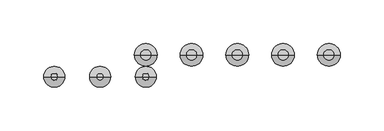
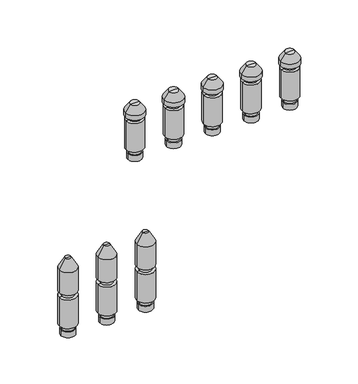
"""IFC4 building model written with IfcOpenShell, lengths in millimetres: valve geometry, PL AT_Manifold_FT-EV : 14 circuits."""

from ifc_helpers import new_model, si_unit, frame, origin, place, context, project, spatial, polyline, circle_curve, source, transform, mapped, element, save
from ifc_brep_helpers import plane_surface, cylinder_surface, revolved_surface, advanced_brep


def valve_4cbf1be7(model_context):
    return source(origin(), model_context, "Body", "AdvancedBrep", [
        advanced_brep(
        [(555.5769231, 25.0, 164.88733), (574.5769231, 25.0, 164.88733), (565.0769231, 25.0, 164.88733), (555.5769231, 25.0, 172.9630354), (574.5769231, 25.0, 172.9630354), (557.0769231, 25.0, 172.9630354), (573.0769231, 25.0, 172.9630354), (557.0769231, 25.0, 179.669747), (573.0769231, 25.0, 179.669747), (553.0769231, 25.0, 179.669747), (577.0769231, 25.0, 179.669747), (553.0769231, 25.0, 220.330253), (577.0769231, 25.0, 220.330253), (557.0769231, 25.0, 220.330253), (573.0769231, 25.0, 220.330253), (557.0769231, 25.0, 226.0474786), (573.0769231, 25.0, 226.0474786), (552.0769231, 25.0, 226.0474786), (578.0769231, 25.0, 226.0474786), (552.0769231, 25.0, 232.337955), (578.0769231, 25.0, 232.337955), (558.732101, 25.0, 241.842534), (571.4217452, 25.0, 241.842534), (565.0769231, 25.0, 241.842534)],
        [
            (0, 1, circle_curve(frame((565.0769231, 25.0, 164.88733), z_axis=(0.0, 0.0, -1.0), x_axis=(1.0, 0.0, 0.0)), 9.5)),
            (1, 2),
            (2, 0),
            (1, 0, circle_curve(frame((565.0769231, 25.0, 164.88733), z_axis=(0.0, 0.0, -1.0), x_axis=(1.0, 0.0, 0.0)), 9.5)),
            (3, 4, circle_curve(frame((565.0769231, 25.0, 172.9630354), z_axis=(0.0, 0.0, -1.0), x_axis=(1.0, 0.0, 0.0)), 9.5)),
            (4, 1),
            (0, 3),
            (4, 3, circle_curve(frame((565.0769231, 25.0, 172.9630354), z_axis=(0.0, 0.0, -1.0), x_axis=(1.0, 0.0, 0.0)), 9.5)),
            (5, 6, circle_curve(frame((565.0769231, 25.0, 172.9630354), z_axis=(0.0, 0.0, -1.0), x_axis=(1.0, 0.0, 0.0)), 8.0)),
            (6, 4),
            (3, 5),
            (6, 5, circle_curve(frame((565.0769231, 25.0, 172.9630354), z_axis=(0.0, 0.0, -1.0), x_axis=(1.0, 0.0, 0.0)), 8.0)),
            (7, 8, circle_curve(frame((565.0769231, 25.0, 179.669747), z_axis=(0.0, 0.0, -1.0), x_axis=(1.0, 0.0, 0.0)), 8.0)),
            (8, 6),
            (5, 7),
            (8, 7, circle_curve(frame((565.0769231, 25.0, 179.669747), z_axis=(0.0, 0.0, -1.0), x_axis=(1.0, 0.0, 0.0)), 8.0)),
            (9, 10, circle_curve(frame((565.0769231, 25.0, 179.669747), z_axis=(0.0, 0.0, -1.0), x_axis=(1.0, 0.0, 0.0)), 12.0)),
            (10, 8),
            (7, 9),
            (10, 9, circle_curve(frame((565.0769231, 25.0, 179.669747), z_axis=(0.0, 0.0, -1.0), x_axis=(1.0, 0.0, 0.0)), 12.0)),
            (11, 12, circle_curve(frame((565.0769231, 25.0, 220.330253), z_axis=(0.0, 0.0, -1.0), x_axis=(1.0, 0.0, 0.0)), 12.0)),
            (12, 10),
            (9, 11),
            (12, 11, circle_curve(frame((565.0769231, 25.0, 220.330253), z_axis=(0.0, 0.0, -1.0), x_axis=(1.0, 0.0, 0.0)), 12.0)),
            (13, 14, circle_curve(frame((565.0769231, 25.0, 220.330253), z_axis=(0.0, 0.0, -1.0), x_axis=(1.0, 0.0, 0.0)), 8.0)),
            (14, 12),
            (11, 13),
            (14, 13, circle_curve(frame((565.0769231, 25.0, 220.330253), z_axis=(0.0, 0.0, -1.0), x_axis=(1.0, 0.0, 0.0)), 8.0)),
            (15, 16, circle_curve(frame((565.0769231, 25.0, 226.0474786), z_axis=(0.0, 0.0, -1.0), x_axis=(1.0, 0.0, 0.0)), 8.0)),
            (16, 14),
            (13, 15),
            (16, 15, circle_curve(frame((565.0769231, 25.0, 226.0474786), z_axis=(0.0, 0.0, -1.0), x_axis=(1.0, 0.0, 0.0)), 8.0)),
            (17, 18, circle_curve(frame((565.0769231, 25.0, 226.0474786), z_axis=(0.0, 0.0, -1.0), x_axis=(1.0, 0.0, 0.0)), 13.0)),
            (18, 16),
            (15, 17),
            (18, 17, circle_curve(frame((565.0769231, 25.0, 226.0474786), z_axis=(0.0, 0.0, -1.0), x_axis=(1.0, 0.0, 0.0)), 13.0)),
            (19, 20, circle_curve(frame((565.0769231, 25.0, 232.337955), z_axis=(0.0, 0.0, -1.0), x_axis=(1.0, 0.0, 0.0)), 13.0)),
            (20, 18),
            (17, 19),
            (20, 19, circle_curve(frame((565.0769231, 25.0, 232.337955), z_axis=(0.0, 0.0, -1.0), x_axis=(1.0, 0.0, 0.0)), 13.0)),
            (21, 22, circle_curve(frame((565.0769231, 25.0, 241.842534), z_axis=(0.0, 0.0, -1.0), x_axis=(1.0, 0.0, 0.0)), 6.3448221)),
            (22, 20),
            (19, 21),
            (22, 21, circle_curve(frame((565.0769231, 25.0, 241.842534), z_axis=(0.0, 0.0, -1.0), x_axis=(1.0, 0.0, 0.0)), 6.3448221)),
            (23, 22),
            (21, 23),
        ],
        [
            plane_surface(frame((565.0769231, 25.0, 164.88733), z_axis=(0.0, 0.0, -1.0), x_axis=(1.0, 0.0, 0.0))),
            cylinder_surface(frame((565.0769231, 25.0, 237.7026565), z_axis=(0.0, 0.0, 1.0), x_axis=(1.0, 0.0, 0.0)), 9.5),
            plane_surface(frame((565.0769231, 25.0, 172.9630354), z_axis=(0.0, 0.0, 1.0), x_axis=(1.0, 0.0, 0.0))),
            cylinder_surface(frame((565.0769231, 25.0, 237.7026565), z_axis=(0.0, 0.0, 1.0), x_axis=(1.0, 0.0, 0.0)), 8.0),
            plane_surface(frame((565.0769231, 25.0, 179.669747), z_axis=(0.0, 0.0, -1.0), x_axis=(1.0, 0.0, 0.0))),
            cylinder_surface(frame((565.0769231, 25.0, 237.7026565), z_axis=(0.0, 0.0, 1.0), x_axis=(1.0, 0.0, 0.0)), 12.0),
            plane_surface(frame((565.0769231, 25.0, 220.330253), z_axis=(0.0, 0.0, 1.0), x_axis=(1.0, 0.0, 0.0))),
            plane_surface(frame((565.0769231, 25.0, 226.0474786), z_axis=(0.0, 0.0, -1.0), x_axis=(1.0, 0.0, 0.0))),
            cylinder_surface(frame((565.0769231, 25.0, 237.7026565), z_axis=(0.0, 0.0, 1.0), x_axis=(1.0, 0.0, 0.0)), 13.0),
            revolved_surface(polyline([(578.0769231, 25.0, 232.337955), (571.4217452, 25.0, 241.842534)]), (565.0769231, 25.0, 237.7026565), (0.0, 0.0, 1.0)),
            plane_surface(frame((565.0769231, 25.0, 241.842534), z_axis=(0.0, 0.0, 1.0), x_axis=(1.0, 0.0, 0.0))),
        ],
        [
            (0, [[1, 2, 3]]),
            (0, [[4, -3, -2]]),
            (1, [[5, 6, -1, 7]]),
            (1, [[8, -7, -4, -6]]),
            (2, [[9, 10, -5, 11]]),
            (2, [[12, -11, -8, -10]]),
            (3, [[13, 14, -9, 15]]),
            (3, [[16, -15, -12, -14]]),
            (4, [[17, 18, -13, 19]]),
            (4, [[20, -19, -16, -18]]),
            (5, [[21, 22, -17, 23]]),
            (5, [[24, -23, -20, -22]]),
            (6, [[25, 26, -21, 27]]),
            (6, [[28, -27, -24, -26]]),
            (3, [[29, 30, -25, 31]]),
            (3, [[32, -31, -28, -30]]),
            (7, [[33, 34, -29, 35]]),
            (7, [[36, -35, -32, -34]]),
            (8, [[37, 38, -33, 39]]),
            (8, [[40, -39, -36, -38]]),
            (9, [[41, 42, -37, 43]]),
            (9, [[44, -43, -40, -42]]),
            (10, [[45, -41, 46]]),
            (10, [[-46, -44, -45]]),
        ],
    ),
        advanced_brep(
        [(503.2692308, 25.0, 164.88733), (522.2692308, 25.0, 164.88733), (512.7692308, 25.0, 164.88733), (503.2692308, 25.0, 172.9630354), (522.2692308, 25.0, 172.9630354), (504.7692308, 25.0, 172.9630354), (520.7692308, 25.0, 172.9630354), (504.7692308, 25.0, 179.669747), (520.7692308, 25.0, 179.669747), (500.7692308, 25.0, 179.669747), (524.7692308, 25.0, 179.669747), (500.7692308, 25.0, 220.330253), (524.7692308, 25.0, 220.330253), (504.7692308, 25.0, 220.330253), (520.7692308, 25.0, 220.330253), (504.7692308, 25.0, 226.0474786), (520.7692308, 25.0, 226.0474786), (499.7692308, 25.0, 226.0474786), (525.7692308, 25.0, 226.0474786), (499.7692308, 25.0, 232.337955), (525.7692308, 25.0, 232.337955), (506.4244086, 25.0, 241.842534), (519.1140529, 25.0, 241.842534), (512.7692308, 25.0, 241.842534)],
        [
            (0, 1, circle_curve(frame((512.7692308, 25.0, 164.88733), z_axis=(0.0, 0.0, -1.0), x_axis=(1.0, 0.0, 0.0)), 9.5)),
            (1, 2),
            (2, 0),
            (1, 0, circle_curve(frame((512.7692308, 25.0, 164.88733), z_axis=(0.0, 0.0, -1.0), x_axis=(1.0, 0.0, 0.0)), 9.5)),
            (3, 4, circle_curve(frame((512.7692308, 25.0, 172.9630354), z_axis=(0.0, 0.0, -1.0), x_axis=(1.0, 0.0, 0.0)), 9.5)),
            (4, 1),
            (0, 3),
            (4, 3, circle_curve(frame((512.7692308, 25.0, 172.9630354), z_axis=(0.0, 0.0, -1.0), x_axis=(1.0, 0.0, 0.0)), 9.5)),
            (5, 6, circle_curve(frame((512.7692308, 25.0, 172.9630354), z_axis=(0.0, 0.0, -1.0), x_axis=(1.0, 0.0, 0.0)), 8.0)),
            (6, 4),
            (3, 5),
            (6, 5, circle_curve(frame((512.7692308, 25.0, 172.9630354), z_axis=(0.0, 0.0, -1.0), x_axis=(1.0, 0.0, 0.0)), 8.0)),
            (7, 8, circle_curve(frame((512.7692308, 25.0, 179.669747), z_axis=(0.0, 0.0, -1.0), x_axis=(1.0, 0.0, 0.0)), 8.0)),
            (8, 6),
            (5, 7),
            (8, 7, circle_curve(frame((512.7692308, 25.0, 179.669747), z_axis=(0.0, 0.0, -1.0), x_axis=(1.0, 0.0, 0.0)), 8.0)),
            (9, 10, circle_curve(frame((512.7692308, 25.0, 179.669747), z_axis=(0.0, 0.0, -1.0), x_axis=(1.0, 0.0, 0.0)), 12.0)),
            (10, 8),
            (7, 9),
            (10, 9, circle_curve(frame((512.7692308, 25.0, 179.669747), z_axis=(0.0, 0.0, -1.0), x_axis=(1.0, 0.0, 0.0)), 12.0)),
            (11, 12, circle_curve(frame((512.7692308, 25.0, 220.330253), z_axis=(0.0, 0.0, -1.0), x_axis=(1.0, 0.0, 0.0)), 12.0)),
            (12, 10),
            (9, 11),
            (12, 11, circle_curve(frame((512.7692308, 25.0, 220.330253), z_axis=(0.0, 0.0, -1.0), x_axis=(1.0, 0.0, 0.0)), 12.0)),
            (13, 14, circle_curve(frame((512.7692308, 25.0, 220.330253), z_axis=(0.0, 0.0, -1.0), x_axis=(1.0, 0.0, 0.0)), 8.0)),
            (14, 12),
            (11, 13),
            (14, 13, circle_curve(frame((512.7692308, 25.0, 220.330253), z_axis=(0.0, 0.0, -1.0), x_axis=(1.0, 0.0, 0.0)), 8.0)),
            (15, 16, circle_curve(frame((512.7692308, 25.0, 226.0474786), z_axis=(0.0, 0.0, -1.0), x_axis=(1.0, 0.0, 0.0)), 8.0)),
            (16, 14),
            (13, 15),
            (16, 15, circle_curve(frame((512.7692308, 25.0, 226.0474786), z_axis=(0.0, 0.0, -1.0), x_axis=(1.0, 0.0, 0.0)), 8.0)),
            (17, 18, circle_curve(frame((512.7692308, 25.0, 226.0474786), z_axis=(0.0, 0.0, -1.0), x_axis=(1.0, 0.0, 0.0)), 13.0)),
            (18, 16),
            (15, 17),
            (18, 17, circle_curve(frame((512.7692308, 25.0, 226.0474786), z_axis=(0.0, 0.0, -1.0), x_axis=(1.0, 0.0, 0.0)), 13.0)),
            (19, 20, circle_curve(frame((512.7692308, 25.0, 232.337955), z_axis=(0.0, 0.0, -1.0), x_axis=(1.0, 0.0, 0.0)), 13.0)),
            (20, 18),
            (17, 19),
            (20, 19, circle_curve(frame((512.7692308, 25.0, 232.337955), z_axis=(0.0, 0.0, -1.0), x_axis=(1.0, 0.0, 0.0)), 13.0)),
            (21, 22, circle_curve(frame((512.7692308, 25.0, 241.842534), z_axis=(0.0, 0.0, -1.0), x_axis=(1.0, 0.0, 0.0)), 6.3448221)),
            (22, 20),
            (19, 21),
            (22, 21, circle_curve(frame((512.7692308, 25.0, 241.842534), z_axis=(0.0, 0.0, -1.0), x_axis=(1.0, 0.0, 0.0)), 6.3448221)),
            (23, 22),
            (21, 23),
        ],
        [
            plane_surface(frame((512.7692308, 25.0, 164.88733), z_axis=(0.0, 0.0, -1.0), x_axis=(1.0, 0.0, 0.0))),
            cylinder_surface(frame((512.7692308, 25.0, 237.7026565), z_axis=(0.0, 0.0, 1.0), x_axis=(1.0, 0.0, 0.0)), 9.5),
            plane_surface(frame((512.7692308, 25.0, 172.9630354), z_axis=(0.0, 0.0, 1.0), x_axis=(1.0, 0.0, 0.0))),
            cylinder_surface(frame((512.7692308, 25.0, 237.7026565), z_axis=(0.0, 0.0, 1.0), x_axis=(1.0, 0.0, 0.0)), 8.0),
            plane_surface(frame((512.7692308, 25.0, 179.669747), z_axis=(0.0, 0.0, -1.0), x_axis=(1.0, 0.0, 0.0))),
            cylinder_surface(frame((512.7692308, 25.0, 237.7026565), z_axis=(0.0, 0.0, 1.0), x_axis=(1.0, 0.0, 0.0)), 12.0),
            plane_surface(frame((512.7692308, 25.0, 220.330253), z_axis=(0.0, 0.0, 1.0), x_axis=(1.0, 0.0, 0.0))),
            plane_surface(frame((512.7692308, 25.0, 226.0474786), z_axis=(0.0, 0.0, -1.0), x_axis=(1.0, 0.0, 0.0))),
            cylinder_surface(frame((512.7692308, 25.0, 237.7026565), z_axis=(0.0, 0.0, 1.0), x_axis=(1.0, 0.0, 0.0)), 13.0),
            revolved_surface(polyline([(525.7692308, 25.0, 232.337955), (519.1140529, 25.0, 241.842534)]), (512.7692308, 25.0, 237.7026565), (0.0, 0.0, 1.0)),
            plane_surface(frame((512.7692308, 25.0, 241.842534), z_axis=(0.0, 0.0, 1.0), x_axis=(1.0, 0.0, 0.0))),
        ],
        [
            (0, [[1, 2, 3]]),
            (0, [[4, -3, -2]]),
            (1, [[5, 6, -1, 7]]),
            (1, [[8, -7, -4, -6]]),
            (2, [[9, 10, -5, 11]]),
            (2, [[12, -11, -8, -10]]),
            (3, [[13, 14, -9, 15]]),
            (3, [[16, -15, -12, -14]]),
            (4, [[17, 18, -13, 19]]),
            (4, [[20, -19, -16, -18]]),
            (5, [[21, 22, -17, 23]]),
            (5, [[24, -23, -20, -22]]),
            (6, [[25, 26, -21, 27]]),
            (6, [[28, -27, -24, -26]]),
            (3, [[29, 30, -25, 31]]),
            (3, [[32, -31, -28, -30]]),
            (7, [[33, 34, -29, 35]]),
            (7, [[36, -35, -32, -34]]),
            (8, [[37, 38, -33, 39]]),
            (8, [[40, -39, -36, -38]]),
            (9, [[41, 42, -37, 43]]),
            (9, [[44, -43, -40, -42]]),
            (10, [[45, -41, 46]]),
            (10, [[-46, -44, -45]]),
        ],
    ),
        advanced_brep(
        [(450.9615385, 25.0, 164.88733), (469.9615385, 25.0, 164.88733), (460.4615385, 25.0, 164.88733), (450.9615385, 25.0, 172.9630354), (469.9615385, 25.0, 172.9630354), (452.4615385, 25.0, 172.9630354), (468.4615385, 25.0, 172.9630354), (452.4615385, 25.0, 179.669747), (468.4615385, 25.0, 179.669747), (448.4615385, 25.0, 179.669747), (472.4615385, 25.0, 179.669747), (448.4615385, 25.0, 220.330253), (472.4615385, 25.0, 220.330253), (452.4615385, 25.0, 220.330253), (468.4615385, 25.0, 220.330253), (452.4615385, 25.0, 226.0474786), (468.4615385, 25.0, 226.0474786), (447.4615385, 25.0, 226.0474786), (473.4615385, 25.0, 226.0474786), (447.4615385, 25.0, 232.337955), (473.4615385, 25.0, 232.337955), (454.1167163, 25.0, 241.842534), (466.8063606, 25.0, 241.842534), (460.4615385, 25.0, 241.842534)],
        [
            (0, 1, circle_curve(frame((460.4615385, 25.0, 164.88733), z_axis=(0.0, 0.0, -1.0), x_axis=(1.0, 0.0, 0.0)), 9.5)),
            (1, 2),
            (2, 0),
            (1, 0, circle_curve(frame((460.4615385, 25.0, 164.88733), z_axis=(0.0, 0.0, -1.0), x_axis=(1.0, 0.0, 0.0)), 9.5)),
            (3, 4, circle_curve(frame((460.4615385, 25.0, 172.9630354), z_axis=(0.0, 0.0, -1.0), x_axis=(1.0, 0.0, 0.0)), 9.5)),
            (4, 1),
            (0, 3),
            (4, 3, circle_curve(frame((460.4615385, 25.0, 172.9630354), z_axis=(0.0, 0.0, -1.0), x_axis=(1.0, 0.0, 0.0)), 9.5)),
            (5, 6, circle_curve(frame((460.4615385, 25.0, 172.9630354), z_axis=(0.0, 0.0, -1.0), x_axis=(1.0, 0.0, 0.0)), 8.0)),
            (6, 4),
            (3, 5),
            (6, 5, circle_curve(frame((460.4615385, 25.0, 172.9630354), z_axis=(0.0, 0.0, -1.0), x_axis=(1.0, 0.0, 0.0)), 8.0)),
            (7, 8, circle_curve(frame((460.4615385, 25.0, 179.669747), z_axis=(0.0, 0.0, -1.0), x_axis=(1.0, 0.0, 0.0)), 8.0)),
            (8, 6),
            (5, 7),
            (8, 7, circle_curve(frame((460.4615385, 25.0, 179.669747), z_axis=(0.0, 0.0, -1.0), x_axis=(1.0, 0.0, 0.0)), 8.0)),
            (9, 10, circle_curve(frame((460.4615385, 25.0, 179.669747), z_axis=(0.0, 0.0, -1.0), x_axis=(1.0, 0.0, 0.0)), 12.0)),
            (10, 8),
            (7, 9),
            (10, 9, circle_curve(frame((460.4615385, 25.0, 179.669747), z_axis=(0.0, 0.0, -1.0), x_axis=(1.0, 0.0, 0.0)), 12.0)),
            (11, 12, circle_curve(frame((460.4615385, 25.0, 220.330253), z_axis=(0.0, 0.0, -1.0), x_axis=(1.0, 0.0, 0.0)), 12.0)),
            (12, 10),
            (9, 11),
            (12, 11, circle_curve(frame((460.4615385, 25.0, 220.330253), z_axis=(0.0, 0.0, -1.0), x_axis=(1.0, 0.0, 0.0)), 12.0)),
            (13, 14, circle_curve(frame((460.4615385, 25.0, 220.330253), z_axis=(0.0, 0.0, -1.0), x_axis=(1.0, 0.0, 0.0)), 8.0)),
            (14, 12),
            (11, 13),
            (14, 13, circle_curve(frame((460.4615385, 25.0, 220.330253), z_axis=(0.0, 0.0, -1.0), x_axis=(1.0, 0.0, 0.0)), 8.0)),
            (15, 16, circle_curve(frame((460.4615385, 25.0, 226.0474786), z_axis=(0.0, 0.0, -1.0), x_axis=(1.0, 0.0, 0.0)), 8.0)),
            (16, 14),
            (13, 15),
            (16, 15, circle_curve(frame((460.4615385, 25.0, 226.0474786), z_axis=(0.0, 0.0, -1.0), x_axis=(1.0, 0.0, 0.0)), 8.0)),
            (17, 18, circle_curve(frame((460.4615385, 25.0, 226.0474786), z_axis=(0.0, 0.0, -1.0), x_axis=(1.0, 0.0, 0.0)), 13.0)),
            (18, 16),
            (15, 17),
            (18, 17, circle_curve(frame((460.4615385, 25.0, 226.0474786), z_axis=(0.0, 0.0, -1.0), x_axis=(1.0, 0.0, 0.0)), 13.0)),
            (19, 20, circle_curve(frame((460.4615385, 25.0, 232.337955), z_axis=(0.0, 0.0, -1.0), x_axis=(1.0, 0.0, 0.0)), 13.0)),
            (20, 18),
            (17, 19),
            (20, 19, circle_curve(frame((460.4615385, 25.0, 232.337955), z_axis=(0.0, 0.0, -1.0), x_axis=(1.0, 0.0, 0.0)), 13.0)),
            (21, 22, circle_curve(frame((460.4615385, 25.0, 241.842534), z_axis=(0.0, 0.0, -1.0), x_axis=(1.0, 0.0, 0.0)), 6.3448221)),
            (22, 20),
            (19, 21),
            (22, 21, circle_curve(frame((460.4615385, 25.0, 241.842534), z_axis=(0.0, 0.0, -1.0), x_axis=(1.0, 0.0, 0.0)), 6.3448221)),
            (23, 22),
            (21, 23),
        ],
        [
            plane_surface(frame((460.4615385, 25.0, 164.88733), z_axis=(0.0, 0.0, -1.0), x_axis=(1.0, 0.0, 0.0))),
            cylinder_surface(frame((460.4615385, 25.0, 237.7026565), z_axis=(0.0, 0.0, 1.0), x_axis=(1.0, 0.0, 0.0)), 9.5),
            plane_surface(frame((460.4615385, 25.0, 172.9630354), z_axis=(0.0, 0.0, 1.0), x_axis=(1.0, 0.0, 0.0))),
            cylinder_surface(frame((460.4615385, 25.0, 237.7026565), z_axis=(0.0, 0.0, 1.0), x_axis=(1.0, 0.0, 0.0)), 8.0),
            plane_surface(frame((460.4615385, 25.0, 179.669747), z_axis=(0.0, 0.0, -1.0), x_axis=(1.0, 0.0, 0.0))),
            cylinder_surface(frame((460.4615385, 25.0, 237.7026565), z_axis=(0.0, 0.0, 1.0), x_axis=(1.0, 0.0, 0.0)), 12.0),
            plane_surface(frame((460.4615385, 25.0, 220.330253), z_axis=(0.0, 0.0, 1.0), x_axis=(1.0, 0.0, 0.0))),
            plane_surface(frame((460.4615385, 25.0, 226.0474786), z_axis=(0.0, 0.0, -1.0), x_axis=(1.0, 0.0, 0.0))),
            cylinder_surface(frame((460.4615385, 25.0, 237.7026565), z_axis=(0.0, 0.0, 1.0), x_axis=(1.0, 0.0, 0.0)), 13.0),
            revolved_surface(polyline([(473.4615385, 25.0, 232.337955), (466.8063606, 25.0, 241.842534)]), (460.4615385, 25.0, 237.7026565), (0.0, 0.0, 1.0)),
            plane_surface(frame((460.4615385, 25.0, 241.842534), z_axis=(0.0, 0.0, 1.0), x_axis=(1.0, 0.0, 0.0))),
        ],
        [
            (0, [[1, 2, 3]]),
            (0, [[4, -3, -2]]),
            (1, [[5, 6, -1, 7]]),
            (1, [[8, -7, -4, -6]]),
            (2, [[9, 10, -5, 11]]),
            (2, [[12, -11, -8, -10]]),
            (3, [[13, 14, -9, 15]]),
            (3, [[16, -15, -12, -14]]),
            (4, [[17, 18, -13, 19]]),
            (4, [[20, -19, -16, -18]]),
            (5, [[21, 22, -17, 23]]),
            (5, [[24, -23, -20, -22]]),
            (6, [[25, 26, -21, 27]]),
            (6, [[28, -27, -24, -26]]),
            (3, [[29, 30, -25, 31]]),
            (3, [[32, -31, -28, -30]]),
            (7, [[33, 34, -29, 35]]),
            (7, [[36, -35, -32, -34]]),
            (8, [[37, 38, -33, 39]]),
            (8, [[40, -39, -36, -38]]),
            (9, [[41, 42, -37, 43]]),
            (9, [[44, -43, -40, -42]]),
            (10, [[45, -41, 46]]),
            (10, [[-46, -44, -45]]),
        ],
    ),
        advanced_brep(
        [(398.6538462, 25.0, 164.88733), (417.6538462, 25.0, 164.88733), (408.1538462, 25.0, 164.88733), (398.6538462, 25.0, 172.9630354), (417.6538462, 25.0, 172.9630354), (400.1538462, 25.0, 172.9630354), (416.1538462, 25.0, 172.9630354), (400.1538462, 25.0, 179.669747), (416.1538462, 25.0, 179.669747), (396.1538462, 25.0, 179.669747), (420.1538462, 25.0, 179.669747), (396.1538462, 25.0, 220.330253), (420.1538462, 25.0, 220.330253), (400.1538462, 25.0, 220.330253), (416.1538462, 25.0, 220.330253), (400.1538462, 25.0, 226.0474786), (416.1538462, 25.0, 226.0474786), (395.1538462, 25.0, 226.0474786), (421.1538462, 25.0, 226.0474786), (395.1538462, 25.0, 232.337955), (421.1538462, 25.0, 232.337955), (401.809024, 25.0, 241.842534), (414.4986683, 25.0, 241.842534), (408.1538462, 25.0, 241.842534)],
        [
            (0, 1, circle_curve(frame((408.1538462, 25.0, 164.88733), z_axis=(0.0, 0.0, -1.0), x_axis=(1.0, 0.0, 0.0)), 9.5)),
            (1, 2),
            (2, 0),
            (1, 0, circle_curve(frame((408.1538462, 25.0, 164.88733), z_axis=(0.0, 0.0, -1.0), x_axis=(1.0, 0.0, 0.0)), 9.5)),
            (3, 4, circle_curve(frame((408.1538462, 25.0, 172.9630354), z_axis=(0.0, 0.0, -1.0), x_axis=(1.0, 0.0, 0.0)), 9.5)),
            (4, 1),
            (0, 3),
            (4, 3, circle_curve(frame((408.1538462, 25.0, 172.9630354), z_axis=(0.0, 0.0, -1.0), x_axis=(1.0, 0.0, 0.0)), 9.5)),
            (5, 6, circle_curve(frame((408.1538462, 25.0, 172.9630354), z_axis=(0.0, 0.0, -1.0), x_axis=(1.0, 0.0, 0.0)), 8.0)),
            (6, 4),
            (3, 5),
            (6, 5, circle_curve(frame((408.1538462, 25.0, 172.9630354), z_axis=(0.0, 0.0, -1.0), x_axis=(1.0, 0.0, 0.0)), 8.0)),
            (7, 8, circle_curve(frame((408.1538462, 25.0, 179.669747), z_axis=(0.0, 0.0, -1.0), x_axis=(1.0, 0.0, 0.0)), 8.0)),
            (8, 6),
            (5, 7),
            (8, 7, circle_curve(frame((408.1538462, 25.0, 179.669747), z_axis=(0.0, 0.0, -1.0), x_axis=(1.0, 0.0, 0.0)), 8.0)),
            (9, 10, circle_curve(frame((408.1538462, 25.0, 179.669747), z_axis=(0.0, 0.0, -1.0), x_axis=(1.0, 0.0, 0.0)), 12.0)),
            (10, 8),
            (7, 9),
            (10, 9, circle_curve(frame((408.1538462, 25.0, 179.669747), z_axis=(0.0, 0.0, -1.0), x_axis=(1.0, 0.0, 0.0)), 12.0)),
            (11, 12, circle_curve(frame((408.1538462, 25.0, 220.330253), z_axis=(0.0, 0.0, -1.0), x_axis=(1.0, 0.0, 0.0)), 12.0)),
            (12, 10),
            (9, 11),
            (12, 11, circle_curve(frame((408.1538462, 25.0, 220.330253), z_axis=(0.0, 0.0, -1.0), x_axis=(1.0, 0.0, 0.0)), 12.0)),
            (13, 14, circle_curve(frame((408.1538462, 25.0, 220.330253), z_axis=(0.0, 0.0, -1.0), x_axis=(1.0, 0.0, 0.0)), 8.0)),
            (14, 12),
            (11, 13),
            (14, 13, circle_curve(frame((408.1538462, 25.0, 220.330253), z_axis=(0.0, 0.0, -1.0), x_axis=(1.0, 0.0, 0.0)), 8.0)),
            (15, 16, circle_curve(frame((408.1538462, 25.0, 226.0474786), z_axis=(0.0, 0.0, -1.0), x_axis=(1.0, 0.0, 0.0)), 8.0)),
            (16, 14),
            (13, 15),
            (16, 15, circle_curve(frame((408.1538462, 25.0, 226.0474786), z_axis=(0.0, 0.0, -1.0), x_axis=(1.0, 0.0, 0.0)), 8.0)),
            (17, 18, circle_curve(frame((408.1538462, 25.0, 226.0474786), z_axis=(0.0, 0.0, -1.0), x_axis=(1.0, 0.0, 0.0)), 13.0)),
            (18, 16),
            (15, 17),
            (18, 17, circle_curve(frame((408.1538462, 25.0, 226.0474786), z_axis=(0.0, 0.0, -1.0), x_axis=(1.0, 0.0, 0.0)), 13.0)),
            (19, 20, circle_curve(frame((408.1538462, 25.0, 232.337955), z_axis=(0.0, 0.0, -1.0), x_axis=(1.0, 0.0, 0.0)), 13.0)),
            (20, 18),
            (17, 19),
            (20, 19, circle_curve(frame((408.1538462, 25.0, 232.337955), z_axis=(0.0, 0.0, -1.0), x_axis=(1.0, 0.0, 0.0)), 13.0)),
            (21, 22, circle_curve(frame((408.1538462, 25.0, 241.842534), z_axis=(0.0, 0.0, -1.0), x_axis=(1.0, 0.0, 0.0)), 6.3448221)),
            (22, 20),
            (19, 21),
            (22, 21, circle_curve(frame((408.1538462, 25.0, 241.842534), z_axis=(0.0, 0.0, -1.0), x_axis=(1.0, 0.0, 0.0)), 6.3448221)),
            (23, 22),
            (21, 23),
        ],
        [
            plane_surface(frame((408.1538462, 25.0, 164.88733), z_axis=(0.0, 0.0, -1.0), x_axis=(1.0, 0.0, 0.0))),
            cylinder_surface(frame((408.1538462, 25.0, 237.7026565), z_axis=(0.0, 0.0, 1.0), x_axis=(1.0, 0.0, 0.0)), 9.5),
            plane_surface(frame((408.1538462, 25.0, 172.9630354), z_axis=(0.0, 0.0, 1.0), x_axis=(1.0, 0.0, 0.0))),
            cylinder_surface(frame((408.1538462, 25.0, 237.7026565), z_axis=(0.0, 0.0, 1.0), x_axis=(1.0, 0.0, 0.0)), 8.0),
            plane_surface(frame((408.1538462, 25.0, 179.669747), z_axis=(0.0, 0.0, -1.0), x_axis=(1.0, 0.0, 0.0))),
            cylinder_surface(frame((408.1538462, 25.0, 237.7026565), z_axis=(0.0, 0.0, 1.0), x_axis=(1.0, 0.0, 0.0)), 12.0),
            plane_surface(frame((408.1538462, 25.0, 220.330253), z_axis=(0.0, 0.0, 1.0), x_axis=(1.0, 0.0, 0.0))),
            plane_surface(frame((408.1538462, 25.0, 226.0474786), z_axis=(0.0, 0.0, -1.0), x_axis=(1.0, 0.0, 0.0))),
            cylinder_surface(frame((408.1538462, 25.0, 237.7026565), z_axis=(0.0, 0.0, 1.0), x_axis=(1.0, 0.0, 0.0)), 13.0),
            revolved_surface(polyline([(421.1538462, 25.0, 232.337955), (414.4986683, 25.0, 241.842534)]), (408.1538462, 25.0, 237.7026565), (0.0, 0.0, 1.0)),
            plane_surface(frame((408.1538462, 25.0, 241.842534), z_axis=(0.0, 0.0, 1.0), x_axis=(1.0, 0.0, 0.0))),
        ],
        [
            (0, [[1, 2, 3]]),
            (0, [[4, -3, -2]]),
            (1, [[5, 6, -1, 7]]),
            (1, [[8, -7, -4, -6]]),
            (2, [[9, 10, -5, 11]]),
            (2, [[12, -11, -8, -10]]),
            (3, [[13, 14, -9, 15]]),
            (3, [[16, -15, -12, -14]]),
            (4, [[17, 18, -13, 19]]),
            (4, [[20, -19, -16, -18]]),
            (5, [[21, 22, -17, 23]]),
            (5, [[24, -23, -20, -22]]),
            (6, [[25, 26, -21, 27]]),
            (6, [[28, -27, -24, -26]]),
            (3, [[29, 30, -25, 31]]),
            (3, [[32, -31, -28, -30]]),
            (7, [[33, 34, -29, 35]]),
            (7, [[36, -35, -32, -34]]),
            (8, [[37, 38, -33, 39]]),
            (8, [[40, -39, -36, -38]]),
            (9, [[41, 42, -37, 43]]),
            (9, [[44, -43, -40, -42]]),
            (10, [[45, -41, 46]]),
            (10, [[-46, -44, -45]]),
        ],
    ),
        advanced_brep(
        [(346.3461538, 0.0, -35.11267), (365.3461538, 0.0, -35.11267), (355.8461538, 0.0, -35.11267), (346.3461538, 0.0, -27.0369646), (365.3461538, 0.0, -27.0369646), (347.8461538, 0.0, -27.0369646), (363.8461538, 0.0, -27.0369646), (347.8461538, 0.0, -20.330253), (363.8461538, 0.0, -20.330253), (343.8461538, 0.0, -20.330253), (367.8461538, 0.0, -20.330253), (343.8461538, 0.0, 20.330253), (367.8461538, 0.0, 20.330253), (347.8461538, 0.0, 20.330253), (363.8461538, 0.0, 20.330253), (347.8461538, 0.0, 27.0474786), (363.8461538, 0.0, 27.0474786), (343.8461538, 0.0, 27.0474786), (367.8461538, 0.0, 27.0474786), (343.8461538, 0.0, 59.4084325), (367.8461538, 0.0, 59.4084325), (351.8461538, 0.0, 73.264839), (359.8461538, 0.0, 73.264839), (355.8461538, 0.0, 73.264839)],
        [
            (0, 1, circle_curve(frame((355.8461538, 0.0, -35.11267), z_axis=(0.0, 0.0, -1.0), x_axis=(1.0, 0.0, 0.0)), 9.5)),
            (1, 2),
            (2, 0),
            (1, 0, circle_curve(frame((355.8461538, 0.0, -35.11267), z_axis=(0.0, 0.0, -1.0), x_axis=(1.0, 0.0, 0.0)), 9.5)),
            (3, 4, circle_curve(frame((355.8461538, 0.0, -27.0369646), z_axis=(0.0, 0.0, -1.0), x_axis=(1.0, 0.0, 0.0)), 9.5)),
            (4, 1),
            (0, 3),
            (4, 3, circle_curve(frame((355.8461538, 0.0, -27.0369646), z_axis=(0.0, 0.0, -1.0), x_axis=(1.0, 0.0, 0.0)), 9.5)),
            (5, 6, circle_curve(frame((355.8461538, 0.0, -27.0369646), z_axis=(0.0, 0.0, -1.0), x_axis=(1.0, 0.0, 0.0)), 8.0)),
            (6, 4),
            (3, 5),
            (6, 5, circle_curve(frame((355.8461538, 0.0, -27.0369646), z_axis=(0.0, 0.0, -1.0), x_axis=(1.0, 0.0, 0.0)), 8.0)),
            (7, 8, circle_curve(frame((355.8461538, 0.0, -20.330253), z_axis=(0.0, 0.0, -1.0), x_axis=(1.0, 0.0, 0.0)), 8.0)),
            (8, 6),
            (5, 7),
            (8, 7, circle_curve(frame((355.8461538, 0.0, -20.330253), z_axis=(0.0, 0.0, -1.0), x_axis=(1.0, 0.0, 0.0)), 8.0)),
            (9, 10, circle_curve(frame((355.8461538, 0.0, -20.330253), z_axis=(0.0, 0.0, -1.0), x_axis=(1.0, 0.0, 0.0)), 12.0)),
            (10, 8),
            (7, 9),
            (10, 9, circle_curve(frame((355.8461538, 0.0, -20.330253), z_axis=(0.0, 0.0, -1.0), x_axis=(1.0, 0.0, 0.0)), 12.0)),
            (11, 12, circle_curve(frame((355.8461538, 0.0, 20.330253), z_axis=(0.0, 0.0, -1.0), x_axis=(1.0, 0.0, 0.0)), 12.0)),
            (12, 10),
            (9, 11),
            (12, 11, circle_curve(frame((355.8461538, 0.0, 20.330253), z_axis=(0.0, 0.0, -1.0), x_axis=(1.0, 0.0, 0.0)), 12.0)),
            (13, 14, circle_curve(frame((355.8461538, 0.0, 20.330253), z_axis=(0.0, 0.0, -1.0), x_axis=(1.0, 0.0, 0.0)), 8.0)),
            (14, 12),
            (11, 13),
            (14, 13, circle_curve(frame((355.8461538, 0.0, 20.330253), z_axis=(0.0, 0.0, -1.0), x_axis=(1.0, 0.0, 0.0)), 8.0)),
            (15, 16, circle_curve(frame((355.8461538, 0.0, 27.0474786), z_axis=(0.0, 0.0, -1.0), x_axis=(1.0, 0.0, 0.0)), 8.0)),
            (16, 14),
            (13, 15),
            (16, 15, circle_curve(frame((355.8461538, 0.0, 27.0474786), z_axis=(0.0, 0.0, -1.0), x_axis=(1.0, 0.0, 0.0)), 8.0)),
            (17, 18, circle_curve(frame((355.8461538, 0.0, 27.0474786), z_axis=(0.0, 0.0, -1.0), x_axis=(1.0, 0.0, 0.0)), 12.0)),
            (18, 16),
            (15, 17),
            (18, 17, circle_curve(frame((355.8461538, 0.0, 27.0474786), z_axis=(0.0, 0.0, -1.0), x_axis=(1.0, 0.0, 0.0)), 12.0)),
            (19, 20, circle_curve(frame((355.8461538, 0.0, 59.4084325), z_axis=(0.0, 0.0, -1.0), x_axis=(1.0, 0.0, 0.0)), 12.0)),
            (20, 18),
            (17, 19),
            (20, 19, circle_curve(frame((355.8461538, 0.0, 59.4084325), z_axis=(0.0, 0.0, -1.0), x_axis=(1.0, 0.0, 0.0)), 12.0)),
            (21, 22, circle_curve(frame((355.8461538, 0.0, 73.264839), z_axis=(0.0, 0.0, -1.0), x_axis=(1.0, 0.0, 0.0)), 4.0)),
            (22, 20),
            (19, 21),
            (22, 21, circle_curve(frame((355.8461538, 0.0, 73.264839), z_axis=(0.0, 0.0, -1.0), x_axis=(1.0, 0.0, 0.0)), 4.0)),
            (23, 22),
            (21, 23),
        ],
        [
            plane_surface(frame((355.8461538, 0.0, -35.11267), z_axis=(0.0, 0.0, -1.0), x_axis=(1.0, 0.0, 0.0))),
            cylinder_surface(frame((355.8461538, 0.0, 58.264839), z_axis=(0.0, 0.0, 1.0), x_axis=(1.0, 0.0, 0.0)), 9.5),
            plane_surface(frame((355.8461538, 0.0, -27.0369646), z_axis=(0.0, 0.0, 1.0), x_axis=(1.0, 0.0, 0.0))),
            cylinder_surface(frame((355.8461538, 0.0, 58.264839), z_axis=(0.0, 0.0, 1.0), x_axis=(1.0, 0.0, 0.0)), 8.0),
            plane_surface(frame((355.8461538, 0.0, -20.330253), z_axis=(0.0, 0.0, -1.0), x_axis=(1.0, 0.0, 0.0))),
            cylinder_surface(frame((355.8461538, 0.0, 58.264839), z_axis=(0.0, 0.0, 1.0), x_axis=(1.0, 0.0, 0.0)), 12.0),
            plane_surface(frame((355.8461538, 0.0, 20.330253), z_axis=(0.0, 0.0, 1.0), x_axis=(1.0, 0.0, 0.0))),
            plane_surface(frame((355.8461538, 0.0, 27.0474786), z_axis=(0.0, 0.0, -1.0), x_axis=(1.0, 0.0, 0.0))),
            revolved_surface(polyline([(367.8461538, 0.0, 59.4084325), (359.8461538, 0.0, 73.264839)]), (355.8461538, 0.0, 58.264839), (0.0, 0.0, 1.0)),
            plane_surface(frame((355.8461538, 0.0, 73.264839), z_axis=(0.0, 0.0, 1.0), x_axis=(1.0, 0.0, 0.0))),
        ],
        [
            (0, [[1, 2, 3]]),
            (0, [[4, -3, -2]]),
            (1, [[5, 6, -1, 7]]),
            (1, [[8, -7, -4, -6]]),
            (2, [[9, 10, -5, 11]]),
            (2, [[12, -11, -8, -10]]),
            (3, [[13, 14, -9, 15]]),
            (3, [[16, -15, -12, -14]]),
            (4, [[17, 18, -13, 19]]),
            (4, [[20, -19, -16, -18]]),
            (5, [[21, 22, -17, 23]]),
            (5, [[24, -23, -20, -22]]),
            (6, [[25, 26, -21, 27]]),
            (6, [[28, -27, -24, -26]]),
            (3, [[29, 30, -25, 31]]),
            (3, [[32, -31, -28, -30]]),
            (7, [[33, 34, -29, 35]]),
            (7, [[36, -35, -32, -34]]),
            (5, [[37, 38, -33, 39]]),
            (5, [[40, -39, -36, -38]]),
            (8, [[41, 42, -37, 43]]),
            (8, [[44, -43, -40, -42]]),
            (9, [[45, -41, 46]]),
            (9, [[-46, -44, -45]]),
        ],
    ),
        advanced_brep(
        [(346.3461538, 25.0, 164.88733), (365.3461538, 25.0, 164.88733), (355.8461538, 25.0, 164.88733), (346.3461538, 25.0, 172.9630354), (365.3461538, 25.0, 172.9630354), (347.8461538, 25.0, 172.9630354), (363.8461538, 25.0, 172.9630354), (347.8461538, 25.0, 179.669747), (363.8461538, 25.0, 179.669747), (343.8461538, 25.0, 179.669747), (367.8461538, 25.0, 179.669747), (343.8461538, 25.0, 220.330253), (367.8461538, 25.0, 220.330253), (347.8461538, 25.0, 220.330253), (363.8461538, 25.0, 220.330253), (347.8461538, 25.0, 226.0474786), (363.8461538, 25.0, 226.0474786), (342.8461538, 25.0, 226.0474786), (368.8461538, 25.0, 226.0474786), (342.8461538, 25.0, 232.337955), (368.8461538, 25.0, 232.337955), (349.5013317, 25.0, 241.842534), (362.190976, 25.0, 241.842534), (355.8461538, 25.0, 241.842534)],
        [
            (0, 1, circle_curve(frame((355.8461538, 25.0, 164.88733), z_axis=(0.0, 0.0, -1.0), x_axis=(1.0, 0.0, 0.0)), 9.5)),
            (1, 2),
            (2, 0),
            (1, 0, circle_curve(frame((355.8461538, 25.0, 164.88733), z_axis=(0.0, 0.0, -1.0), x_axis=(1.0, 0.0, 0.0)), 9.5)),
            (3, 4, circle_curve(frame((355.8461538, 25.0, 172.9630354), z_axis=(0.0, 0.0, -1.0), x_axis=(1.0, 0.0, 0.0)), 9.5)),
            (4, 1),
            (0, 3),
            (4, 3, circle_curve(frame((355.8461538, 25.0, 172.9630354), z_axis=(0.0, 0.0, -1.0), x_axis=(1.0, 0.0, 0.0)), 9.5)),
            (5, 6, circle_curve(frame((355.8461538, 25.0, 172.9630354), z_axis=(0.0, 0.0, -1.0), x_axis=(1.0, 0.0, 0.0)), 8.0)),
            (6, 4),
            (3, 5),
            (6, 5, circle_curve(frame((355.8461538, 25.0, 172.9630354), z_axis=(0.0, 0.0, -1.0), x_axis=(1.0, 0.0, 0.0)), 8.0)),
            (7, 8, circle_curve(frame((355.8461538, 25.0, 179.669747), z_axis=(0.0, 0.0, -1.0), x_axis=(1.0, 0.0, 0.0)), 8.0)),
            (8, 6),
            (5, 7),
            (8, 7, circle_curve(frame((355.8461538, 25.0, 179.669747), z_axis=(0.0, 0.0, -1.0), x_axis=(1.0, 0.0, 0.0)), 8.0)),
            (9, 10, circle_curve(frame((355.8461538, 25.0, 179.669747), z_axis=(0.0, 0.0, -1.0), x_axis=(1.0, 0.0, 0.0)), 12.0)),
            (10, 8),
            (7, 9),
            (10, 9, circle_curve(frame((355.8461538, 25.0, 179.669747), z_axis=(0.0, 0.0, -1.0), x_axis=(1.0, 0.0, 0.0)), 12.0)),
            (11, 12, circle_curve(frame((355.8461538, 25.0, 220.330253), z_axis=(0.0, 0.0, -1.0), x_axis=(1.0, 0.0, 0.0)), 12.0)),
            (12, 10),
            (9, 11),
            (12, 11, circle_curve(frame((355.8461538, 25.0, 220.330253), z_axis=(0.0, 0.0, -1.0), x_axis=(1.0, 0.0, 0.0)), 12.0)),
            (13, 14, circle_curve(frame((355.8461538, 25.0, 220.330253), z_axis=(0.0, 0.0, -1.0), x_axis=(1.0, 0.0, 0.0)), 8.0)),
            (14, 12),
            (11, 13),
            (14, 13, circle_curve(frame((355.8461538, 25.0, 220.330253), z_axis=(0.0, 0.0, -1.0), x_axis=(1.0, 0.0, 0.0)), 8.0)),
            (15, 16, circle_curve(frame((355.8461538, 25.0, 226.0474786), z_axis=(0.0, 0.0, -1.0), x_axis=(1.0, 0.0, 0.0)), 8.0)),
            (16, 14),
            (13, 15),
            (16, 15, circle_curve(frame((355.8461538, 25.0, 226.0474786), z_axis=(0.0, 0.0, -1.0), x_axis=(1.0, 0.0, 0.0)), 8.0)),
            (17, 18, circle_curve(frame((355.8461538, 25.0, 226.0474786), z_axis=(0.0, 0.0, -1.0), x_axis=(1.0, 0.0, 0.0)), 13.0)),
            (18, 16),
            (15, 17),
            (18, 17, circle_curve(frame((355.8461538, 25.0, 226.0474786), z_axis=(0.0, 0.0, -1.0), x_axis=(1.0, 0.0, 0.0)), 13.0)),
            (19, 20, circle_curve(frame((355.8461538, 25.0, 232.337955), z_axis=(0.0, 0.0, -1.0), x_axis=(1.0, 0.0, 0.0)), 13.0)),
            (20, 18),
            (17, 19),
            (20, 19, circle_curve(frame((355.8461538, 25.0, 232.337955), z_axis=(0.0, 0.0, -1.0), x_axis=(1.0, 0.0, 0.0)), 13.0)),
            (21, 22, circle_curve(frame((355.8461538, 25.0, 241.842534), z_axis=(0.0, 0.0, -1.0), x_axis=(1.0, 0.0, 0.0)), 6.3448221)),
            (22, 20),
            (19, 21),
            (22, 21, circle_curve(frame((355.8461538, 25.0, 241.842534), z_axis=(0.0, 0.0, -1.0), x_axis=(1.0, 0.0, 0.0)), 6.3448221)),
            (23, 22),
            (21, 23),
        ],
        [
            plane_surface(frame((355.8461538, 25.0, 164.88733), z_axis=(0.0, 0.0, -1.0), x_axis=(1.0, 0.0, 0.0))),
            cylinder_surface(frame((355.8461538, 25.0, 237.7026565), z_axis=(0.0, 0.0, 1.0), x_axis=(1.0, 0.0, 0.0)), 9.5),
            plane_surface(frame((355.8461538, 25.0, 172.9630354), z_axis=(0.0, 0.0, 1.0), x_axis=(1.0, 0.0, 0.0))),
            cylinder_surface(frame((355.8461538, 25.0, 237.7026565), z_axis=(0.0, 0.0, 1.0), x_axis=(1.0, 0.0, 0.0)), 8.0),
            plane_surface(frame((355.8461538, 25.0, 179.669747), z_axis=(0.0, 0.0, -1.0), x_axis=(1.0, 0.0, 0.0))),
            cylinder_surface(frame((355.8461538, 25.0, 237.7026565), z_axis=(0.0, 0.0, 1.0), x_axis=(1.0, 0.0, 0.0)), 12.0),
            plane_surface(frame((355.8461538, 25.0, 220.330253), z_axis=(0.0, 0.0, 1.0), x_axis=(1.0, 0.0, 0.0))),
            plane_surface(frame((355.8461538, 25.0, 226.0474786), z_axis=(0.0, 0.0, -1.0), x_axis=(1.0, 0.0, 0.0))),
            cylinder_surface(frame((355.8461538, 25.0, 237.7026565), z_axis=(0.0, 0.0, 1.0), x_axis=(1.0, 0.0, 0.0)), 13.0),
            revolved_surface(polyline([(368.8461538, 25.0, 232.337955), (362.190976, 25.0, 241.842534)]), (355.8461538, 25.0, 237.7026565), (0.0, 0.0, 1.0)),
            plane_surface(frame((355.8461538, 25.0, 241.842534), z_axis=(0.0, 0.0, 1.0), x_axis=(1.0, 0.0, 0.0))),
        ],
        [
            (0, [[1, 2, 3]]),
            (0, [[4, -3, -2]]),
            (1, [[5, 6, -1, 7]]),
            (1, [[8, -7, -4, -6]]),
            (2, [[9, 10, -5, 11]]),
            (2, [[12, -11, -8, -10]]),
            (3, [[13, 14, -9, 15]]),
            (3, [[16, -15, -12, -14]]),
            (4, [[17, 18, -13, 19]]),
            (4, [[20, -19, -16, -18]]),
            (5, [[21, 22, -17, 23]]),
            (5, [[24, -23, -20, -22]]),
            (6, [[25, 26, -21, 27]]),
            (6, [[28, -27, -24, -26]]),
            (3, [[29, 30, -25, 31]]),
            (3, [[32, -31, -28, -30]]),
            (7, [[33, 34, -29, 35]]),
            (7, [[36, -35, -32, -34]]),
            (8, [[37, 38, -33, 39]]),
            (8, [[40, -39, -36, -38]]),
            (9, [[41, 42, -37, 43]]),
            (9, [[44, -43, -40, -42]]),
            (10, [[45, -41, 46]]),
            (10, [[-46, -44, -45]]),
        ],
    ),
        advanced_brep(
        [(294.0384615, 0.0, -35.11267), (313.0384615, 0.0, -35.11267), (303.5384615, 0.0, -35.11267), (294.0384615, 0.0, -27.0369646), (313.0384615, 0.0, -27.0369646), (295.5384615, 0.0, -27.0369646), (311.5384615, 0.0, -27.0369646), (295.5384615, 0.0, -20.330253), (311.5384615, 0.0, -20.330253), (291.5384615, 0.0, -20.330253), (315.5384615, 0.0, -20.330253), (291.5384615, 0.0, 20.330253), (315.5384615, 0.0, 20.330253), (295.5384615, 0.0, 20.330253), (311.5384615, 0.0, 20.330253), (295.5384615, 0.0, 27.0474786), (311.5384615, 0.0, 27.0474786), (291.5384615, 0.0, 27.0474786), (315.5384615, 0.0, 27.0474786), (291.5384615, 0.0, 59.4084325), (315.5384615, 0.0, 59.4084325), (299.5384615, 0.0, 73.264839), (307.5384615, 0.0, 73.264839), (303.5384615, 0.0, 73.264839)],
        [
            (0, 1, circle_curve(frame((303.5384615, 0.0, -35.11267), z_axis=(0.0, 0.0, -1.0), x_axis=(1.0, 0.0, 0.0)), 9.5)),
            (1, 2),
            (2, 0),
            (1, 0, circle_curve(frame((303.5384615, 0.0, -35.11267), z_axis=(0.0, 0.0, -1.0), x_axis=(1.0, 0.0, 0.0)), 9.5)),
            (3, 4, circle_curve(frame((303.5384615, 0.0, -27.0369646), z_axis=(0.0, 0.0, -1.0), x_axis=(1.0, 0.0, 0.0)), 9.5)),
            (4, 1),
            (0, 3),
            (4, 3, circle_curve(frame((303.5384615, 0.0, -27.0369646), z_axis=(0.0, 0.0, -1.0), x_axis=(1.0, 0.0, 0.0)), 9.5)),
            (5, 6, circle_curve(frame((303.5384615, 0.0, -27.0369646), z_axis=(0.0, 0.0, -1.0), x_axis=(1.0, 0.0, 0.0)), 8.0)),
            (6, 4),
            (3, 5),
            (6, 5, circle_curve(frame((303.5384615, 0.0, -27.0369646), z_axis=(0.0, 0.0, -1.0), x_axis=(1.0, 0.0, 0.0)), 8.0)),
            (7, 8, circle_curve(frame((303.5384615, 0.0, -20.330253), z_axis=(0.0, 0.0, -1.0), x_axis=(1.0, 0.0, 0.0)), 8.0)),
            (8, 6),
            (5, 7),
            (8, 7, circle_curve(frame((303.5384615, 0.0, -20.330253), z_axis=(0.0, 0.0, -1.0), x_axis=(1.0, 0.0, 0.0)), 8.0)),
            (9, 10, circle_curve(frame((303.5384615, 0.0, -20.330253), z_axis=(0.0, 0.0, -1.0), x_axis=(1.0, 0.0, 0.0)), 12.0)),
            (10, 8),
            (7, 9),
            (10, 9, circle_curve(frame((303.5384615, 0.0, -20.330253), z_axis=(0.0, 0.0, -1.0), x_axis=(1.0, 0.0, 0.0)), 12.0)),
            (11, 12, circle_curve(frame((303.5384615, 0.0, 20.330253), z_axis=(0.0, 0.0, -1.0), x_axis=(1.0, 0.0, 0.0)), 12.0)),
            (12, 10),
            (9, 11),
            (12, 11, circle_curve(frame((303.5384615, 0.0, 20.330253), z_axis=(0.0, 0.0, -1.0), x_axis=(1.0, 0.0, 0.0)), 12.0)),
            (13, 14, circle_curve(frame((303.5384615, 0.0, 20.330253), z_axis=(0.0, 0.0, -1.0), x_axis=(1.0, 0.0, 0.0)), 8.0)),
            (14, 12),
            (11, 13),
            (14, 13, circle_curve(frame((303.5384615, 0.0, 20.330253), z_axis=(0.0, 0.0, -1.0), x_axis=(1.0, 0.0, 0.0)), 8.0)),
            (15, 16, circle_curve(frame((303.5384615, 0.0, 27.0474786), z_axis=(0.0, 0.0, -1.0), x_axis=(1.0, 0.0, 0.0)), 8.0)),
            (16, 14),
            (13, 15),
            (16, 15, circle_curve(frame((303.5384615, 0.0, 27.0474786), z_axis=(0.0, 0.0, -1.0), x_axis=(1.0, 0.0, 0.0)), 8.0)),
            (17, 18, circle_curve(frame((303.5384615, 0.0, 27.0474786), z_axis=(0.0, 0.0, -1.0), x_axis=(1.0, 0.0, 0.0)), 12.0)),
            (18, 16),
            (15, 17),
            (18, 17, circle_curve(frame((303.5384615, 0.0, 27.0474786), z_axis=(0.0, 0.0, -1.0), x_axis=(1.0, 0.0, 0.0)), 12.0)),
            (19, 20, circle_curve(frame((303.5384615, 0.0, 59.4084325), z_axis=(0.0, 0.0, -1.0), x_axis=(1.0, 0.0, 0.0)), 12.0)),
            (20, 18),
            (17, 19),
            (20, 19, circle_curve(frame((303.5384615, 0.0, 59.4084325), z_axis=(0.0, 0.0, -1.0), x_axis=(1.0, 0.0, 0.0)), 12.0)),
            (21, 22, circle_curve(frame((303.5384615, 0.0, 73.264839), z_axis=(0.0, 0.0, -1.0), x_axis=(1.0, 0.0, 0.0)), 4.0)),
            (22, 20),
            (19, 21),
            (22, 21, circle_curve(frame((303.5384615, 0.0, 73.264839), z_axis=(0.0, 0.0, -1.0), x_axis=(1.0, 0.0, 0.0)), 4.0)),
            (23, 22),
            (21, 23),
        ],
        [
            plane_surface(frame((303.5384615, 0.0, -35.11267), z_axis=(0.0, 0.0, -1.0), x_axis=(1.0, 0.0, 0.0))),
            cylinder_surface(frame((303.5384615, 0.0, 58.264839), z_axis=(0.0, 0.0, 1.0), x_axis=(1.0, 0.0, 0.0)), 9.5),
            plane_surface(frame((303.5384615, 0.0, -27.0369646), z_axis=(0.0, 0.0, 1.0), x_axis=(1.0, 0.0, 0.0))),
            cylinder_surface(frame((303.5384615, 0.0, 58.264839), z_axis=(0.0, 0.0, 1.0), x_axis=(1.0, 0.0, 0.0)), 8.0),
            plane_surface(frame((303.5384615, 0.0, -20.330253), z_axis=(0.0, 0.0, -1.0), x_axis=(1.0, 0.0, 0.0))),
            cylinder_surface(frame((303.5384615, 0.0, 58.264839), z_axis=(0.0, 0.0, 1.0), x_axis=(1.0, 0.0, 0.0)), 12.0),
            plane_surface(frame((303.5384615, 0.0, 20.330253), z_axis=(0.0, 0.0, 1.0), x_axis=(1.0, 0.0, 0.0))),
            plane_surface(frame((303.5384615, 0.0, 27.0474786), z_axis=(0.0, 0.0, -1.0), x_axis=(1.0, 0.0, 0.0))),
            revolved_surface(polyline([(315.5384615, 0.0, 59.4084325), (307.5384615, 0.0, 73.264839)]), (303.5384615, 0.0, 58.264839), (0.0, 0.0, 1.0)),
            plane_surface(frame((303.5384615, 0.0, 73.264839), z_axis=(0.0, 0.0, 1.0), x_axis=(1.0, 0.0, 0.0))),
        ],
        [
            (0, [[1, 2, 3]]),
            (0, [[4, -3, -2]]),
            (1, [[5, 6, -1, 7]]),
            (1, [[8, -7, -4, -6]]),
            (2, [[9, 10, -5, 11]]),
            (2, [[12, -11, -8, -10]]),
            (3, [[13, 14, -9, 15]]),
            (3, [[16, -15, -12, -14]]),
            (4, [[17, 18, -13, 19]]),
            (4, [[20, -19, -16, -18]]),
            (5, [[21, 22, -17, 23]]),
            (5, [[24, -23, -20, -22]]),
            (6, [[25, 26, -21, 27]]),
            (6, [[28, -27, -24, -26]]),
            (3, [[29, 30, -25, 31]]),
            (3, [[32, -31, -28, -30]]),
            (7, [[33, 34, -29, 35]]),
            (7, [[36, -35, -32, -34]]),
            (5, [[37, 38, -33, 39]]),
            (5, [[40, -39, -36, -38]]),
            (8, [[41, 42, -37, 43]]),
            (8, [[44, -43, -40, -42]]),
            (9, [[45, -41, 46]]),
            (9, [[-46, -44, -45]]),
        ],
    ),
        advanced_brep(
        [(241.7307692, 0.0, -35.11267), (260.7307692, 0.0, -35.11267), (251.2307692, 0.0, -35.11267), (241.7307692, 0.0, -27.0369646), (260.7307692, 0.0, -27.0369646), (243.2307692, 0.0, -27.0369646), (259.2307692, 0.0, -27.0369646), (243.2307692, 0.0, -20.330253), (259.2307692, 0.0, -20.330253), (239.2307692, 0.0, -20.330253), (263.2307692, 0.0, -20.330253), (239.2307692, 0.0, 20.330253), (263.2307692, 0.0, 20.330253), (243.2307692, 0.0, 20.330253), (259.2307692, 0.0, 20.330253), (243.2307692, 0.0, 27.0474786), (259.2307692, 0.0, 27.0474786), (239.2307692, 0.0, 27.0474786), (263.2307692, 0.0, 27.0474786), (239.2307692, 0.0, 59.4084325), (263.2307692, 0.0, 59.4084325), (247.2307692, 0.0, 73.264839), (255.2307692, 0.0, 73.264839), (251.2307692, 0.0, 73.264839)],
        [
            (0, 1, circle_curve(frame((251.2307692, 0.0, -35.11267), z_axis=(0.0, 0.0, -1.0), x_axis=(1.0, 0.0, 0.0)), 9.5)),
            (1, 2),
            (2, 0),
            (1, 0, circle_curve(frame((251.2307692, 0.0, -35.11267), z_axis=(0.0, 0.0, -1.0), x_axis=(1.0, 0.0, 0.0)), 9.5)),
            (3, 4, circle_curve(frame((251.2307692, 0.0, -27.0369646), z_axis=(0.0, 0.0, -1.0), x_axis=(1.0, 0.0, 0.0)), 9.5)),
            (4, 1),
            (0, 3),
            (4, 3, circle_curve(frame((251.2307692, 0.0, -27.0369646), z_axis=(0.0, 0.0, -1.0), x_axis=(1.0, 0.0, 0.0)), 9.5)),
            (5, 6, circle_curve(frame((251.2307692, 0.0, -27.0369646), z_axis=(0.0, 0.0, -1.0), x_axis=(1.0, 0.0, 0.0)), 8.0)),
            (6, 4),
            (3, 5),
            (6, 5, circle_curve(frame((251.2307692, 0.0, -27.0369646), z_axis=(0.0, 0.0, -1.0), x_axis=(1.0, 0.0, 0.0)), 8.0)),
            (7, 8, circle_curve(frame((251.2307692, 0.0, -20.330253), z_axis=(0.0, 0.0, -1.0), x_axis=(1.0, 0.0, 0.0)), 8.0)),
            (8, 6),
            (5, 7),
            (8, 7, circle_curve(frame((251.2307692, 0.0, -20.330253), z_axis=(0.0, 0.0, -1.0), x_axis=(1.0, 0.0, 0.0)), 8.0)),
            (9, 10, circle_curve(frame((251.2307692, 0.0, -20.330253), z_axis=(0.0, 0.0, -1.0), x_axis=(1.0, 0.0, 0.0)), 12.0)),
            (10, 8),
            (7, 9),
            (10, 9, circle_curve(frame((251.2307692, 0.0, -20.330253), z_axis=(0.0, 0.0, -1.0), x_axis=(1.0, 0.0, 0.0)), 12.0)),
            (11, 12, circle_curve(frame((251.2307692, 0.0, 20.330253), z_axis=(0.0, 0.0, -1.0), x_axis=(1.0, 0.0, 0.0)), 12.0)),
            (12, 10),
            (9, 11),
            (12, 11, circle_curve(frame((251.2307692, 0.0, 20.330253), z_axis=(0.0, 0.0, -1.0), x_axis=(1.0, 0.0, 0.0)), 12.0)),
            (13, 14, circle_curve(frame((251.2307692, 0.0, 20.330253), z_axis=(0.0, 0.0, -1.0), x_axis=(1.0, 0.0, 0.0)), 8.0)),
            (14, 12),
            (11, 13),
            (14, 13, circle_curve(frame((251.2307692, 0.0, 20.330253), z_axis=(0.0, 0.0, -1.0), x_axis=(1.0, 0.0, 0.0)), 8.0)),
            (15, 16, circle_curve(frame((251.2307692, 0.0, 27.0474786), z_axis=(0.0, 0.0, -1.0), x_axis=(1.0, 0.0, 0.0)), 8.0)),
            (16, 14),
            (13, 15),
            (16, 15, circle_curve(frame((251.2307692, 0.0, 27.0474786), z_axis=(0.0, 0.0, -1.0), x_axis=(1.0, 0.0, 0.0)), 8.0)),
            (17, 18, circle_curve(frame((251.2307692, 0.0, 27.0474786), z_axis=(0.0, 0.0, -1.0), x_axis=(1.0, 0.0, 0.0)), 12.0)),
            (18, 16),
            (15, 17),
            (18, 17, circle_curve(frame((251.2307692, 0.0, 27.0474786), z_axis=(0.0, 0.0, -1.0), x_axis=(1.0, 0.0, 0.0)), 12.0)),
            (19, 20, circle_curve(frame((251.2307692, 0.0, 59.4084325), z_axis=(0.0, 0.0, -1.0), x_axis=(1.0, 0.0, 0.0)), 12.0)),
            (20, 18),
            (17, 19),
            (20, 19, circle_curve(frame((251.2307692, 0.0, 59.4084325), z_axis=(0.0, 0.0, -1.0), x_axis=(1.0, 0.0, 0.0)), 12.0)),
            (21, 22, circle_curve(frame((251.2307692, 0.0, 73.264839), z_axis=(0.0, 0.0, -1.0), x_axis=(1.0, 0.0, 0.0)), 4.0)),
            (22, 20),
            (19, 21),
            (22, 21, circle_curve(frame((251.2307692, 0.0, 73.264839), z_axis=(0.0, 0.0, -1.0), x_axis=(1.0, 0.0, 0.0)), 4.0)),
            (23, 22),
            (21, 23),
        ],
        [
            plane_surface(frame((251.2307692, 0.0, -35.11267), z_axis=(0.0, 0.0, -1.0), x_axis=(1.0, 0.0, 0.0))),
            cylinder_surface(frame((251.2307692, 0.0, 58.264839), z_axis=(0.0, 0.0, 1.0), x_axis=(1.0, 0.0, 0.0)), 9.5),
            plane_surface(frame((251.2307692, 0.0, -27.0369646), z_axis=(0.0, 0.0, 1.0), x_axis=(1.0, 0.0, 0.0))),
            cylinder_surface(frame((251.2307692, 0.0, 58.264839), z_axis=(0.0, 0.0, 1.0), x_axis=(1.0, 0.0, 0.0)), 8.0),
            plane_surface(frame((251.2307692, 0.0, -20.330253), z_axis=(0.0, 0.0, -1.0), x_axis=(1.0, 0.0, 0.0))),
            cylinder_surface(frame((251.2307692, 0.0, 58.264839), z_axis=(0.0, 0.0, 1.0), x_axis=(1.0, 0.0, 0.0)), 12.0),
            plane_surface(frame((251.2307692, 0.0, 20.330253), z_axis=(0.0, 0.0, 1.0), x_axis=(1.0, 0.0, 0.0))),
            plane_surface(frame((251.2307692, 0.0, 27.0474786), z_axis=(0.0, 0.0, -1.0), x_axis=(1.0, 0.0, 0.0))),
            revolved_surface(polyline([(263.2307692, 0.0, 59.4084325), (255.2307692, 0.0, 73.264839)]), (251.2307692, 0.0, 58.264839), (0.0, 0.0, 1.0)),
            plane_surface(frame((251.2307692, 0.0, 73.264839), z_axis=(0.0, 0.0, 1.0), x_axis=(1.0, 0.0, 0.0))),
        ],
        [
            (0, [[1, 2, 3]]),
            (0, [[4, -3, -2]]),
            (1, [[5, 6, -1, 7]]),
            (1, [[8, -7, -4, -6]]),
            (2, [[9, 10, -5, 11]]),
            (2, [[12, -11, -8, -10]]),
            (3, [[13, 14, -9, 15]]),
            (3, [[16, -15, -12, -14]]),
            (4, [[17, 18, -13, 19]]),
            (4, [[20, -19, -16, -18]]),
            (5, [[21, 22, -17, 23]]),
            (5, [[24, -23, -20, -22]]),
            (6, [[25, 26, -21, 27]]),
            (6, [[28, -27, -24, -26]]),
            (3, [[29, 30, -25, 31]]),
            (3, [[32, -31, -28, -30]]),
            (7, [[33, 34, -29, 35]]),
            (7, [[36, -35, -32, -34]]),
            (5, [[37, 38, -33, 39]]),
            (5, [[40, -39, -36, -38]]),
            (8, [[41, 42, -37, 43]]),
            (8, [[44, -43, -40, -42]]),
            (9, [[45, -41, 46]]),
            (9, [[-46, -44, -45]]),
        ],
    ),
    ])


if __name__ == "__main__":
    model = new_model("IFC4")
    model_context = context("Model", 3, world=origin())
    ifc_project = project(units=[si_unit("LENGTHUNIT", "METRE", prefix="MILLI")], contexts=[model_context])
    site = spatial("IfcSite", under=ifc_project)
    building = spatial("IfcBuilding", under=site)
    placement = place(None, origin())
    valve_shape = valve_4cbf1be7(model_context)
    element("IfcValve", 1, ObjectType="PL AT_Manifold_FT-EV : 14 circuits", at=placement, inside=building, context=model_context, shape_type="MappedRepresentation", body=[
        mapped(valve_shape, transform((0.0, 0.0, 0.0), x_axis=(1.0, 0.0, 0.0), y_axis=(0.0, 1.0, 0.0), z_axis=(0.0, 0.0, 1.0))),
    ])
    save(model, "model.ifc")
